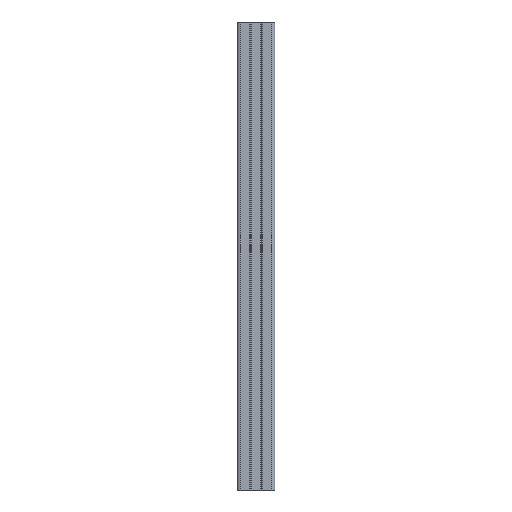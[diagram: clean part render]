
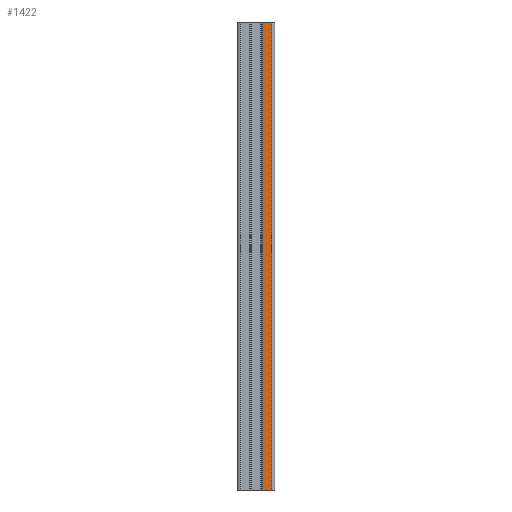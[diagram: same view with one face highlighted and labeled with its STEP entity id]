
A CAD part, front view. The second image highlights one B-rep face of the part: STEP entity #1422.
In plain terms, the highlighted planar face has unit normal (0, -1, 0).
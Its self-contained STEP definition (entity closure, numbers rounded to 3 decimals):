
#65=FACE_OUTER_BOUND('',#141,.T.);
#141=EDGE_LOOP('',(#1048,#1049,#1050,#1051));
#218=LINE('',#2148,#363);
#257=LINE('',#2282,#402);
#258=LINE('',#2286,#403);
#259=LINE('',#2287,#404);
#363=VECTOR('',#1691,10.);
#402=VECTOR('',#1806,10.);
#403=VECTOR('',#1811,10.);
#404=VECTOR('',#1812,10.);
#595=VERTEX_POINT('',#2145);
#596=VERTEX_POINT('',#2147);
#653=VERTEX_POINT('',#2281);
#654=VERTEX_POINT('',#2285);
#741=EDGE_CURVE('',#596,#595,#218,.T.);
#808=EDGE_CURVE('',#653,#596,#257,.T.);
#810=EDGE_CURVE('',#654,#595,#258,.T.);
#811=EDGE_CURVE('',#654,#653,#259,.T.);
#1048=ORIENTED_EDGE('',*,*,#741,.T.);
#1049=ORIENTED_EDGE('',*,*,#810,.F.);
#1050=ORIENTED_EDGE('',*,*,#811,.T.);
#1051=ORIENTED_EDGE('',*,*,#808,.T.);
#1379=PLANE('',#1553);
#1422=ADVANCED_FACE('',(#65),#1379,.T.);
#1553=AXIS2_PLACEMENT_3D('',#2284,#1809,#1810);
#1691=DIRECTION('',(-1.,0.,0.));
#1806=DIRECTION('',(0.,0.,1.));
#1809=DIRECTION('center_axis',(0.,-1.,0.));
#1810=DIRECTION('ref_axis',(1.,0.,0.));
#1811=DIRECTION('',(0.,0.,1.));
#1812=DIRECTION('',(1.,0.,0.));
#2145=CARTESIAN_POINT('',(3.3,-10.,250.));
#2147=CARTESIAN_POINT('',(8.5,-10.,250.));
#2148=CARTESIAN_POINT('',(1.65,-10.,250.));
#2281=CARTESIAN_POINT('',(8.5,-10.,0.));
#2282=CARTESIAN_POINT('',(8.5,-10.,0.));
#2284=CARTESIAN_POINT('Origin',(3.3,-10.,0.));
#2285=CARTESIAN_POINT('',(3.3,-10.,0.));
#2286=CARTESIAN_POINT('',(3.3,-10.,0.));
#2287=CARTESIAN_POINT('',(3.3,-10.,0.));
